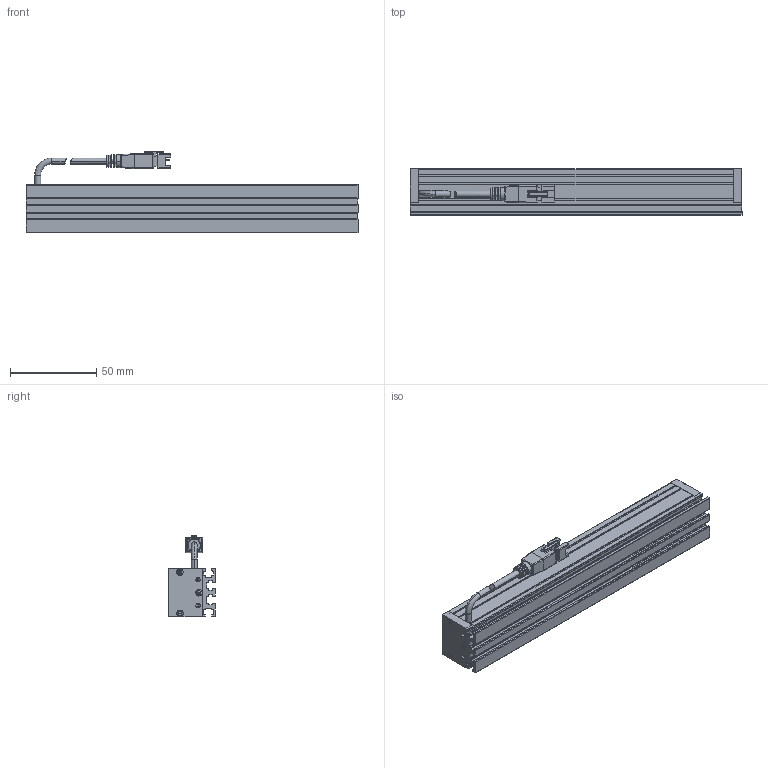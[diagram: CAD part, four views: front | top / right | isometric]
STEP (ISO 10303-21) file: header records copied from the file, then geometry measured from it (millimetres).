
FILE_DESCRIPTION (( 'STEP AP203' ), '1' );
FILE_NAME ('CK-BL19228.STEP', '2026-01-02T02:05:11', ( '' ), ( '' ), 'SwSTEP 2.0', 'SolidWorks 2022', '' );
FILE_SCHEMA (( 'CONFIG_CONTROL_DESIGN' ));
Length unit declared in the file: millimetre
Products named in the file (6): CK-BL19228-002A; CK-BL19228; 十字沉头螺丝 M2x10; CK-BL19228-003A; CK-BL19228-001A; 光源线-01
Assembly tree (11 placements, depth 2):
  CK-BL19228
    CK-BL19228-001A
    CK-BL19228-002A  x2
    CK-BL19228-003A
    光源线-01
    十字沉头螺丝 M2x10  x6
Bounding box: 192 x 27 x 47.34 mm (x, y, z)
Volume: 66241.8 mm3; surface area: 58265.5 mm2
Topology: 13 solids, 13 shells, 575 faces, 1494 edges, 950 vertices
Faces by surface type: plane 337, cylinder 172, cone 46, bspline 20
Entity records: 13997 total; most frequent: CARTESIAN_POINT 2782, ORIENTED_EDGE 2202, DIRECTION 2163, EDGE_CURVE 1101, VECTOR 781, LINE 781, VERTEX_POINT 714, AXIS2_PLACEMENT_3D 691
